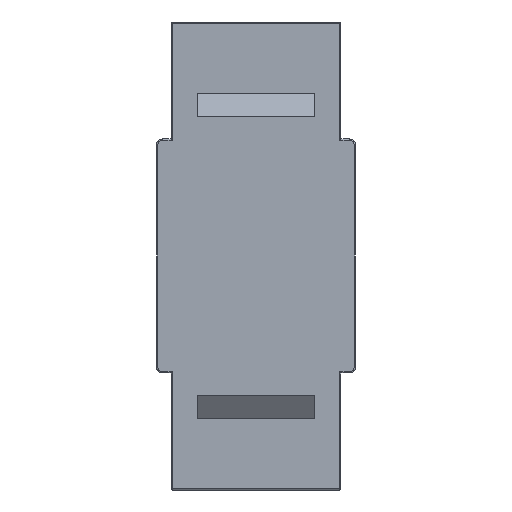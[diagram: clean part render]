
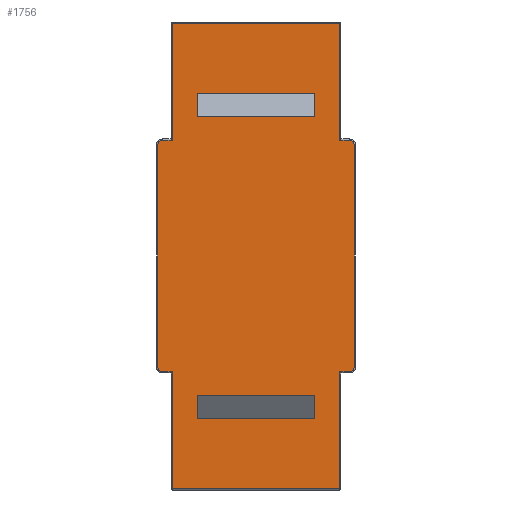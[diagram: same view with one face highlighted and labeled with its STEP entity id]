
A CAD part, front view. The second image highlights one B-rep face of the part: STEP entity #1756.
In plain terms, the highlighted planar face has unit normal (0, -1, 0).
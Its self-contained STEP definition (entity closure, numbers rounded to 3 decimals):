
#1006 = VERTEX_POINT('',#1007);
#1007 = CARTESIAN_POINT('',(-7.15,-8.05,-9.9));
#1014 = EDGE_CURVE('',#1006,#1015,#1017,.T.);
#1015 = VERTEX_POINT('',#1016);
#1016 = CARTESIAN_POINT('',(-7.15,-8.05,-19.9));
#1017 = LINE('',#1018,#1019);
#1018 = CARTESIAN_POINT('',(-7.15,-8.05,-10.));
#1019 = VECTOR('',#1020,1.);
#1020 = DIRECTION('',(-0.,-0.,-1.));
#1089 = VERTEX_POINT('',#1090);
#1090 = CARTESIAN_POINT('',(-8.,-8.05,-9.9));
#1097 = EDGE_CURVE('',#1089,#1006,#1098,.T.);
#1098 = LINE('',#1099,#1100);
#1099 = CARTESIAN_POINT('',(-8.,-8.05,-9.9));
#1100 = VECTOR('',#1101,1.);
#1101 = DIRECTION('',(1.,0.,0.));
#1756 = ADVANCED_FACE('',(#1757,#1875,#1909),#1943,.T.);
#1757 = FACE_BOUND('',#1758,.T.);
#1758 = EDGE_LOOP('',(#1759,#1769,#1776,#1777,#1778,#1786,#1794,#1802,
    #1811,#1819,#1828,#1836,#1844,#1852,#1860,#1868));
#1759 = ORIENTED_EDGE('',*,*,#1760,.F.);
#1760 = EDGE_CURVE('',#1761,#1763,#1765,.T.);
#1761 = VERTEX_POINT('',#1762);
#1762 = CARTESIAN_POINT('',(-8.4,-8.05,-9.5));
#1763 = VERTEX_POINT('',#1764);
#1764 = CARTESIAN_POINT('',(-8.4,-8.05,9.5));
#1765 = LINE('',#1766,#1767);
#1766 = CARTESIAN_POINT('',(-8.4,-8.05,0.));
#1767 = VECTOR('',#1768,1.);
#1768 = DIRECTION('',(0.,0.,1.));
#1769 = ORIENTED_EDGE('',*,*,#1770,.T.);
#1770 = EDGE_CURVE('',#1761,#1089,#1771,.T.);
#1771 = CIRCLE('',#1772,0.4);
#1772 = AXIS2_PLACEMENT_3D('',#1773,#1774,#1775);
#1773 = CARTESIAN_POINT('',(-8.,-8.05,-9.5));
#1774 = DIRECTION('',(0.,-1.,0.));
#1775 = DIRECTION('',(-1.,0.,0.));
#1776 = ORIENTED_EDGE('',*,*,#1097,.T.);
#1777 = ORIENTED_EDGE('',*,*,#1014,.T.);
#1778 = ORIENTED_EDGE('',*,*,#1779,.T.);
#1779 = EDGE_CURVE('',#1015,#1780,#1782,.T.);
#1780 = VERTEX_POINT('',#1781);
#1781 = CARTESIAN_POINT('',(7.15,-8.05,-19.9));
#1782 = LINE('',#1783,#1784);
#1783 = CARTESIAN_POINT('',(-7.25,-8.05,-19.9));
#1784 = VECTOR('',#1785,1.);
#1785 = DIRECTION('',(1.,0.,0.));
#1786 = ORIENTED_EDGE('',*,*,#1787,.F.);
#1787 = EDGE_CURVE('',#1788,#1780,#1790,.T.);
#1788 = VERTEX_POINT('',#1789);
#1789 = CARTESIAN_POINT('',(7.15,-8.05,-9.9));
#1790 = LINE('',#1791,#1792);
#1791 = CARTESIAN_POINT('',(7.15,-8.05,-10.));
#1792 = VECTOR('',#1793,1.);
#1793 = DIRECTION('',(-0.,-0.,-1.));
#1794 = ORIENTED_EDGE('',*,*,#1795,.T.);
#1795 = EDGE_CURVE('',#1788,#1796,#1798,.T.);
#1796 = VERTEX_POINT('',#1797);
#1797 = CARTESIAN_POINT('',(8.,-8.05,-9.9));
#1798 = LINE('',#1799,#1800);
#1799 = CARTESIAN_POINT('',(7.25,-8.05,-9.9));
#1800 = VECTOR('',#1801,1.);
#1801 = DIRECTION('',(1.,0.,0.));
#1802 = ORIENTED_EDGE('',*,*,#1803,.T.);
#1803 = EDGE_CURVE('',#1796,#1804,#1806,.T.);
#1804 = VERTEX_POINT('',#1805);
#1805 = CARTESIAN_POINT('',(8.4,-8.05,-9.5));
#1806 = CIRCLE('',#1807,0.4);
#1807 = AXIS2_PLACEMENT_3D('',#1808,#1809,#1810);
#1808 = CARTESIAN_POINT('',(8.,-8.05,-9.5));
#1809 = DIRECTION('',(0.,-1.,0.));
#1810 = DIRECTION('',(-0.,-0.,-1.));
#1811 = ORIENTED_EDGE('',*,*,#1812,.T.);
#1812 = EDGE_CURVE('',#1804,#1813,#1815,.T.);
#1813 = VERTEX_POINT('',#1814);
#1814 = CARTESIAN_POINT('',(8.4,-8.05,9.5));
#1815 = LINE('',#1816,#1817);
#1816 = CARTESIAN_POINT('',(8.4,-8.05,-9.5));
#1817 = VECTOR('',#1818,1.);
#1818 = DIRECTION('',(0.,0.,1.));
#1819 = ORIENTED_EDGE('',*,*,#1820,.F.);
#1820 = EDGE_CURVE('',#1821,#1813,#1823,.T.);
#1821 = VERTEX_POINT('',#1822);
#1822 = CARTESIAN_POINT('',(8.,-8.05,9.9));
#1823 = CIRCLE('',#1824,0.4);
#1824 = AXIS2_PLACEMENT_3D('',#1825,#1826,#1827);
#1825 = CARTESIAN_POINT('',(8.,-8.05,9.5));
#1826 = DIRECTION('',(0.,1.,0.));
#1827 = DIRECTION('',(0.,0.,1.));
#1828 = ORIENTED_EDGE('',*,*,#1829,.F.);
#1829 = EDGE_CURVE('',#1830,#1821,#1832,.T.);
#1830 = VERTEX_POINT('',#1831);
#1831 = CARTESIAN_POINT('',(7.15,-8.05,9.9));
#1832 = LINE('',#1833,#1834);
#1833 = CARTESIAN_POINT('',(7.25,-8.05,9.9));
#1834 = VECTOR('',#1835,1.);
#1835 = DIRECTION('',(1.,0.,0.));
#1836 = ORIENTED_EDGE('',*,*,#1837,.T.);
#1837 = EDGE_CURVE('',#1830,#1838,#1840,.T.);
#1838 = VERTEX_POINT('',#1839);
#1839 = CARTESIAN_POINT('',(7.15,-8.05,19.9));
#1840 = LINE('',#1841,#1842);
#1841 = CARTESIAN_POINT('',(7.15,-8.05,10.));
#1842 = VECTOR('',#1843,1.);
#1843 = DIRECTION('',(0.,0.,1.));
#1844 = ORIENTED_EDGE('',*,*,#1845,.F.);
#1845 = EDGE_CURVE('',#1846,#1838,#1848,.T.);
#1846 = VERTEX_POINT('',#1847);
#1847 = CARTESIAN_POINT('',(-7.15,-8.05,19.9));
#1848 = LINE('',#1849,#1850);
#1849 = CARTESIAN_POINT('',(-7.25,-8.05,19.9));
#1850 = VECTOR('',#1851,1.);
#1851 = DIRECTION('',(1.,0.,0.));
#1852 = ORIENTED_EDGE('',*,*,#1853,.F.);
#1853 = EDGE_CURVE('',#1854,#1846,#1856,.T.);
#1854 = VERTEX_POINT('',#1855);
#1855 = CARTESIAN_POINT('',(-7.15,-8.05,9.9));
#1856 = LINE('',#1857,#1858);
#1857 = CARTESIAN_POINT('',(-7.15,-8.05,10.));
#1858 = VECTOR('',#1859,1.);
#1859 = DIRECTION('',(0.,0.,1.));
#1860 = ORIENTED_EDGE('',*,*,#1861,.F.);
#1861 = EDGE_CURVE('',#1862,#1854,#1864,.T.);
#1862 = VERTEX_POINT('',#1863);
#1863 = CARTESIAN_POINT('',(-8.,-8.05,9.9));
#1864 = LINE('',#1865,#1866);
#1865 = CARTESIAN_POINT('',(-8.,-8.05,9.9));
#1866 = VECTOR('',#1867,1.);
#1867 = DIRECTION('',(1.,0.,0.));
#1868 = ORIENTED_EDGE('',*,*,#1869,.F.);
#1869 = EDGE_CURVE('',#1763,#1862,#1870,.T.);
#1870 = CIRCLE('',#1871,0.4);
#1871 = AXIS2_PLACEMENT_3D('',#1872,#1873,#1874);
#1872 = CARTESIAN_POINT('',(-8.,-8.05,9.5));
#1873 = DIRECTION('',(0.,1.,-0.));
#1874 = DIRECTION('',(-1.,0.,0.));
#1875 = FACE_BOUND('',#1876,.T.);
#1876 = EDGE_LOOP('',(#1877,#1887,#1895,#1903));
#1877 = ORIENTED_EDGE('',*,*,#1878,.F.);
#1878 = EDGE_CURVE('',#1879,#1881,#1883,.T.);
#1879 = VERTEX_POINT('',#1880);
#1880 = CARTESIAN_POINT('',(-5.,-8.05,11.9));
#1881 = VERTEX_POINT('',#1882);
#1882 = CARTESIAN_POINT('',(5.,-8.05,11.9));
#1883 = LINE('',#1884,#1885);
#1884 = CARTESIAN_POINT('',(-5.,-8.05,11.9));
#1885 = VECTOR('',#1886,1.);
#1886 = DIRECTION('',(1.,0.,0.));
#1887 = ORIENTED_EDGE('',*,*,#1888,.F.);
#1888 = EDGE_CURVE('',#1889,#1879,#1891,.T.);
#1889 = VERTEX_POINT('',#1890);
#1890 = CARTESIAN_POINT('',(-5.,-8.05,13.9));
#1891 = LINE('',#1892,#1893);
#1892 = CARTESIAN_POINT('',(-5.,-8.05,13.9));
#1893 = VECTOR('',#1894,1.);
#1894 = DIRECTION('',(0.,0.,-1.));
#1895 = ORIENTED_EDGE('',*,*,#1896,.F.);
#1896 = EDGE_CURVE('',#1897,#1889,#1899,.T.);
#1897 = VERTEX_POINT('',#1898);
#1898 = CARTESIAN_POINT('',(5.,-8.05,13.9));
#1899 = LINE('',#1900,#1901);
#1900 = CARTESIAN_POINT('',(5.,-8.05,13.9));
#1901 = VECTOR('',#1902,1.);
#1902 = DIRECTION('',(-1.,0.,0.));
#1903 = ORIENTED_EDGE('',*,*,#1904,.F.);
#1904 = EDGE_CURVE('',#1881,#1897,#1905,.T.);
#1905 = LINE('',#1906,#1907);
#1906 = CARTESIAN_POINT('',(5.,-8.05,11.9));
#1907 = VECTOR('',#1908,1.);
#1908 = DIRECTION('',(0.,0.,1.));
#1909 = FACE_BOUND('',#1910,.T.);
#1910 = EDGE_LOOP('',(#1911,#1921,#1929,#1937));
#1911 = ORIENTED_EDGE('',*,*,#1912,.T.);
#1912 = EDGE_CURVE('',#1913,#1915,#1917,.T.);
#1913 = VERTEX_POINT('',#1914);
#1914 = CARTESIAN_POINT('',(-5.,-8.05,-11.9));
#1915 = VERTEX_POINT('',#1916);
#1916 = CARTESIAN_POINT('',(5.,-8.05,-11.9));
#1917 = LINE('',#1918,#1919);
#1918 = CARTESIAN_POINT('',(-5.,-8.05,-11.9));
#1919 = VECTOR('',#1920,1.);
#1920 = DIRECTION('',(1.,0.,0.));
#1921 = ORIENTED_EDGE('',*,*,#1922,.T.);
#1922 = EDGE_CURVE('',#1915,#1923,#1925,.T.);
#1923 = VERTEX_POINT('',#1924);
#1924 = CARTESIAN_POINT('',(5.,-8.05,-13.9));
#1925 = LINE('',#1926,#1927);
#1926 = CARTESIAN_POINT('',(5.,-8.05,-11.9));
#1927 = VECTOR('',#1928,1.);
#1928 = DIRECTION('',(-0.,0.,-1.));
#1929 = ORIENTED_EDGE('',*,*,#1930,.T.);
#1930 = EDGE_CURVE('',#1923,#1931,#1933,.T.);
#1931 = VERTEX_POINT('',#1932);
#1932 = CARTESIAN_POINT('',(-5.,-8.05,-13.9));
#1933 = LINE('',#1934,#1935);
#1934 = CARTESIAN_POINT('',(5.,-8.05,-13.9));
#1935 = VECTOR('',#1936,1.);
#1936 = DIRECTION('',(-1.,0.,-0.));
#1937 = ORIENTED_EDGE('',*,*,#1938,.T.);
#1938 = EDGE_CURVE('',#1931,#1913,#1939,.T.);
#1939 = LINE('',#1940,#1941);
#1940 = CARTESIAN_POINT('',(-5.,-8.05,-13.9));
#1941 = VECTOR('',#1942,1.);
#1942 = DIRECTION('',(0.,0.,1.));
#1943 = PLANE('',#1944);
#1944 = AXIS2_PLACEMENT_3D('',#1945,#1946,#1947);
#1945 = CARTESIAN_POINT('',(0.,-8.05,0.));
#1946 = DIRECTION('',(-0.,-1.,-0.));
#1947 = DIRECTION('',(0.,0.,-1.));
